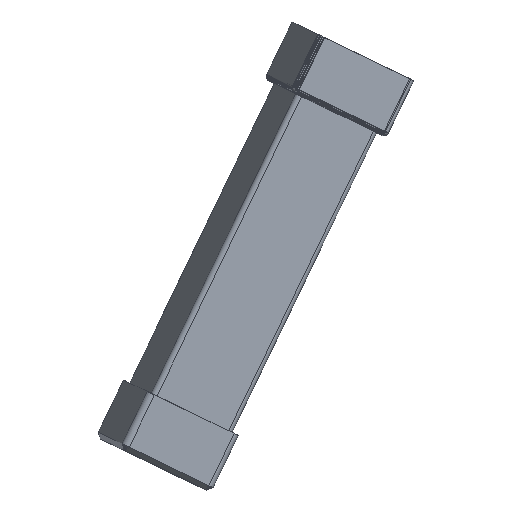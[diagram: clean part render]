
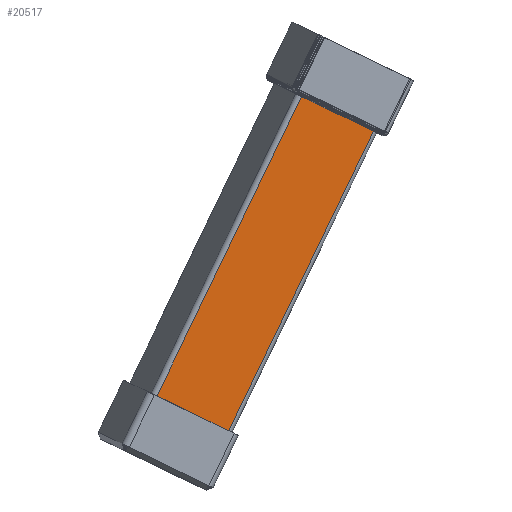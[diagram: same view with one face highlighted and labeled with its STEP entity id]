
A CAD part, top view. The second image highlights one B-rep face of the part: STEP entity #20517.
In plain terms, the highlighted planar face has unit normal (0.258, -0.124, 0.958).
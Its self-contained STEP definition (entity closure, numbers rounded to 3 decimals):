
#1398 = PLANE('',#1399);
#1399 = AXIS2_PLACEMENT_3D('',#1400,#1401,#1402);
#1400 = CARTESIAN_POINT('',(24.016,-39.772,
    32.479));
#1401 = DIRECTION('',(0.435,0.901,-0.001)
  );
#1402 = DIRECTION('',(-0.863,0.417,0.286));
#6725 = VERTEX_POINT('',#6726);
#6726 = CARTESIAN_POINT('',(4.451,-30.322,
    37.782));
#6756 = CYLINDRICAL_SURFACE('',#6757,2.032);
#6757 = AXIS2_PLACEMENT_3D('',#6758,#6759,#6760);
#6758 = CARTESIAN_POINT('',(-25.198,-90.401,
    35.886));
#6759 = DIRECTION('',(0.435,0.901,-0.001)
  );
#6760 = DIRECTION('',(0.428,-0.207,-0.88));
#6767 = EDGE_CURVE('',#6725,#6768,#6770,.T.);
#6768 = VERTEX_POINT('',#6769);
#6769 = CARTESIAN_POINT('',(33.381,-44.297,
    28.195));
#6770 = SURFACE_CURVE('',#6771,(#6775,#6782),.PCURVE_S1.);
#6771 = LINE('',#6772,#6773);
#6772 = CARTESIAN_POINT('',(4.451,-30.322,
    37.782));
#6773 = VECTOR('',#6774,1.);
#6774 = DIRECTION('',(0.863,-0.417,-0.286));
#6775 = PCURVE('',#1398,#6776);
#6776 = DEFINITIONAL_REPRESENTATION('',(#6777),#6781);
#6777 = LINE('',#6778,#6779);
#6778 = CARTESIAN_POINT('',(22.336,-1.132));
#6779 = VECTOR('',#6780,1.);
#6780 = DIRECTION('',(-1.,0.));
#6781 = ( GEOMETRIC_REPRESENTATION_CONTEXT(2) 
PARAMETRIC_REPRESENTATION_CONTEXT() REPRESENTATION_CONTEXT('2D SPACE',''
  ) );
#6782 = PCURVE('',#6783,#6788);
#6783 = PLANE('',#6784);
#6784 = AXIS2_PLACEMENT_3D('',#6785,#6786,#6787);
#6785 = CARTESIAN_POINT('',(-10.21,-97.639,
    33.039));
#6786 = DIRECTION('',(0.258,-0.124,0.958));
#6787 = DIRECTION('',(-0.435,-0.901,0.001)
  );
#6788 = DEFINITIONAL_REPRESENTATION('',(#6789),#6793);
#6789 = LINE('',#6790,#6791);
#6790 = CARTESIAN_POINT('',(-66.992,-16.764));
#6791 = VECTOR('',#6792,1.);
#6792 = DIRECTION('',(0.,1.));
#6793 = ( GEOMETRIC_REPRESENTATION_CONTEXT(2) 
PARAMETRIC_REPRESENTATION_CONTEXT() REPRESENTATION_CONTEXT('2D SPACE',''
  ) );
#6825 = CYLINDRICAL_SURFACE('',#6826,2.032);
#6826 = AXIS2_PLACEMENT_3D('',#6827,#6828,#6829);
#6827 = CARTESIAN_POINT('',(3.731,-104.375,26.299
    ));
#6828 = DIRECTION('',(0.435,0.901,-0.001)
  );
#6829 = DIRECTION('',(-0.792,0.382,-0.475));
#17588 = PLANE('',#17589);
#17589 = AXIS2_PLACEMENT_3D('',#17590,#17591,#17592);
#17590 = CARTESIAN_POINT('',(-44.181,-155.645,
    15.143));
#17591 = DIRECTION('',(0.435,0.901,-0.001
    ));
#17592 = DIRECTION('',(-0.863,0.417,0.286));
#18156 = EDGE_CURVE('',#18157,#18159,#18161,.T.);
#18157 = VERTEX_POINT('',#18158);
#18158 = CARTESIAN_POINT('',(-24.87,-164.956,
    28.297));
#18159 = VERTEX_POINT('',#18160);
#18160 = CARTESIAN_POINT('',(-53.8,-150.982,
    37.884));
#18161 = SURFACE_CURVE('',#18162,(#18166,#18173),.PCURVE_S1.);
#18162 = LINE('',#18163,#18164);
#18163 = CARTESIAN_POINT('',(-24.87,-164.956,
    28.297));
#18164 = VECTOR('',#18165,1.);
#18165 = DIRECTION('',(-0.863,0.417,0.286));
#18166 = PCURVE('',#17588,#18167);
#18167 = DEFINITIONAL_REPRESENTATION('',(#18168),#18172);
#18168 = LINE('',#18169,#18170);
#18169 = CARTESIAN_POINT('',(-16.782,18.735));
#18170 = VECTOR('',#18171,1.);
#18171 = DIRECTION('',(1.,0.));
#18172 = ( GEOMETRIC_REPRESENTATION_CONTEXT(2) 
PARAMETRIC_REPRESENTATION_CONTEXT() REPRESENTATION_CONTEXT('2D SPACE',''
  ) );
#18173 = PCURVE('',#6783,#18174);
#18174 = DEFINITIONAL_REPRESENTATION('',(#18175),#18179);
#18175 = LINE('',#18176,#18177);
#18176 = CARTESIAN_POINT('',(66.992,16.764));
#18177 = VECTOR('',#18178,1.);
#18178 = DIRECTION('',(0.,-1.));
#18179 = ( GEOMETRIC_REPRESENTATION_CONTEXT(2) 
PARAMETRIC_REPRESENTATION_CONTEXT() REPRESENTATION_CONTEXT('2D SPACE',''
  ) );
#20263 = EDGE_CURVE('',#6768,#18157,#20264,.T.);
#20264 = SURFACE_CURVE('',#20265,(#20269,#20276),.PCURVE_S1.);
#20265 = LINE('',#20266,#20267);
#20266 = CARTESIAN_POINT('',(33.381,-44.297,
    28.195));
#20267 = VECTOR('',#20268,1.);
#20268 = DIRECTION('',(-0.435,-0.901,
    0.001));
#20269 = PCURVE('',#6825,#20270);
#20270 = DEFINITIONAL_REPRESENTATION('',(#20271),#20275);
#20271 = LINE('',#20272,#20273);
#20272 = CARTESIAN_POINT('',(2.356,66.992));
#20273 = VECTOR('',#20274,1.);
#20274 = DIRECTION('',(0.,-1.));
#20275 = ( GEOMETRIC_REPRESENTATION_CONTEXT(2) 
PARAMETRIC_REPRESENTATION_CONTEXT() REPRESENTATION_CONTEXT('2D SPACE',''
  ) );
#20276 = PCURVE('',#6783,#20277);
#20277 = DEFINITIONAL_REPRESENTATION('',(#20278),#20282);
#20278 = LINE('',#20279,#20280);
#20279 = CARTESIAN_POINT('',(-66.992,16.764));
#20280 = VECTOR('',#20281,1.);
#20281 = DIRECTION('',(1.,0.));
#20282 = ( GEOMETRIC_REPRESENTATION_CONTEXT(2) 
PARAMETRIC_REPRESENTATION_CONTEXT() REPRESENTATION_CONTEXT('2D SPACE',''
  ) );
#20517 = ADVANCED_FACE('',(#20518),#6783,.T.);
#20518 = FACE_BOUND('',#20519,.T.);
#20519 = EDGE_LOOP('',(#20520,#20521,#20522,#20543));
#20520 = ORIENTED_EDGE('',*,*,#20263,.F.);
#20521 = ORIENTED_EDGE('',*,*,#6767,.F.);
#20522 = ORIENTED_EDGE('',*,*,#20523,.T.);
#20523 = EDGE_CURVE('',#6725,#18159,#20524,.T.);
#20524 = SURFACE_CURVE('',#20525,(#20529,#20536),.PCURVE_S1.);
#20525 = LINE('',#20526,#20527);
#20526 = CARTESIAN_POINT('',(4.451,-30.322,
    37.782));
#20527 = VECTOR('',#20528,1.);
#20528 = DIRECTION('',(-0.435,-0.901,0.001
    ));
#20529 = PCURVE('',#6783,#20530);
#20530 = DEFINITIONAL_REPRESENTATION('',(#20531),#20535);
#20531 = LINE('',#20532,#20533);
#20532 = CARTESIAN_POINT('',(-66.992,-16.764));
#20533 = VECTOR('',#20534,1.);
#20534 = DIRECTION('',(1.,0.));
#20535 = ( GEOMETRIC_REPRESENTATION_CONTEXT(2) 
PARAMETRIC_REPRESENTATION_CONTEXT() REPRESENTATION_CONTEXT('2D SPACE',''
  ) );
#20536 = PCURVE('',#6756,#20537);
#20537 = DEFINITIONAL_REPRESENTATION('',(#20538),#20542);
#20538 = LINE('',#20539,#20540);
#20539 = CARTESIAN_POINT('',(3.927,66.992));
#20540 = VECTOR('',#20541,1.);
#20541 = DIRECTION('',(0.,-1.));
#20542 = ( GEOMETRIC_REPRESENTATION_CONTEXT(2) 
PARAMETRIC_REPRESENTATION_CONTEXT() REPRESENTATION_CONTEXT('2D SPACE',''
  ) );
#20543 = ORIENTED_EDGE('',*,*,#18156,.F.);
